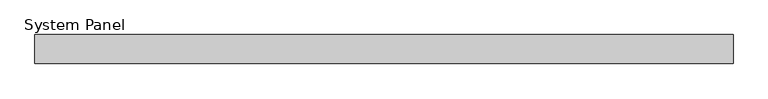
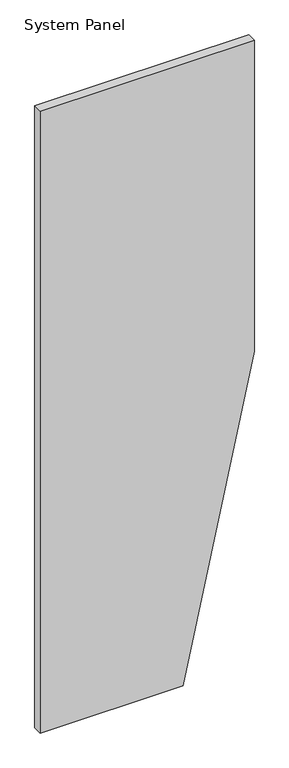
"""IFC4 building model written with IfcOpenShell, lengths in millimetres: plate geometry, System Panel : Equitilt_FlameGuard_50mm_Plain_Surfmist."""

from ifc_helpers import new_model, si_unit, frame, origin, place, context, project, spatial, polyline, outline, extrude, source, transform, mapped, element, save


def system_panel_ced8f9d4(model_context):
    return source(origin(), model_context, "Body", "SweptSolid", [
        extrude(outline(polyline([(0.0, -600.0), (0.0, 200.0), (1839.9852118, 600.0), (3679.9704237, 600.0), (3679.9704237, -600.0), (0.0, -600.0)])), frame((0.0, -50.0, 0.0), z_axis=(0.0, 1.0, 0.0), x_axis=(0.0, 0.0, 1.0)), (0.0, 0.0, 1.0), 50.0),
    ])


if __name__ == "__main__":
    model = new_model("IFC4")
    model_context = context("Model", 3, world=origin())
    ifc_project = project(units=[si_unit("LENGTHUNIT", "METRE", prefix="MILLI")], contexts=[model_context])
    site = spatial("IfcSite", under=ifc_project)
    building = spatial("IfcBuilding", under=site)
    placement = place(None, origin())
    system_panel_shape = system_panel_ced8f9d4(model_context)
    element("IfcPlate", 1, ObjectType="System Panel : Equitilt_FlameGuard_50mm_Plain_Surfmist", at=placement, inside=building, context=model_context, shape_type="MappedRepresentation", body=[
        mapped(system_panel_shape, transform((0.0, 0.0, 0.0), x_axis=(1.0, 0.0, 0.0), y_axis=(0.0, 1.0, 0.0), z_axis=(0.0, 0.0, 1.0))),
    ])
    save(model, "model.ifc")
